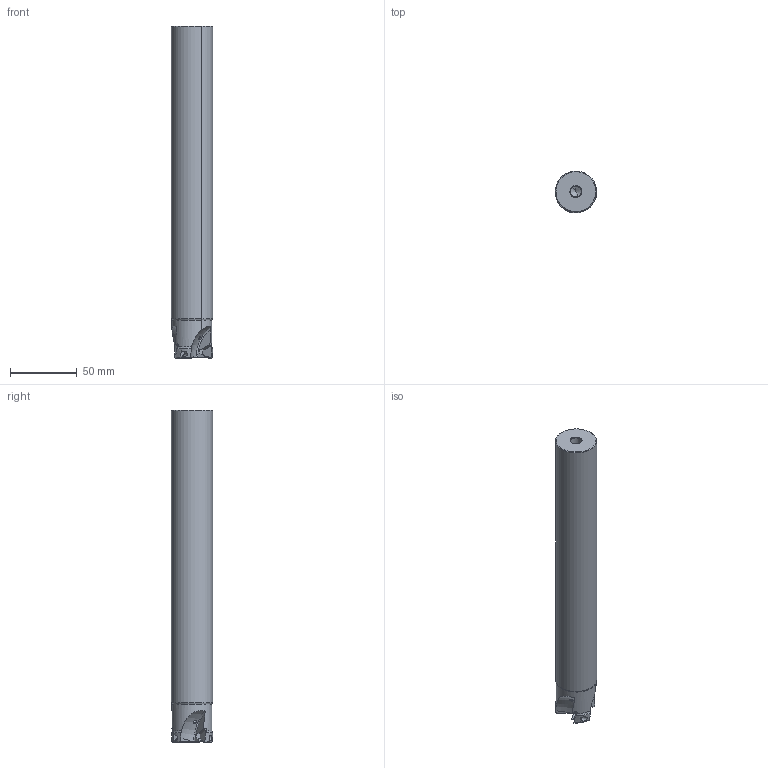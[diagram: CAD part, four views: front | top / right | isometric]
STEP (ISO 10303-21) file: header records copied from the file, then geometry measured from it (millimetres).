
FILE_DESCRIPTION(('CATIA V5 STEP','CAx-IF Rec.Pracs.--- Model Styling and Organization---1.2---2011-12-15'),'2;1');
FILE_NAME('N:\data\isr\design\special1\users\NATALY_B\Tal\NPA\3107038\HM390 ETP D32-3-C31-10-B.stp','2016-07-26T08:06:49+00:00',('none'),('none'),'CATIA Version 5 Release 21 SP 5 (IN-10)','CATIA V5 STEP AP214','none');
FILE_SCHEMA(('AUTOMOTIVE_DESIGN { 1 0 10303 214 1 1 1 1 }'));
Length unit declared in the file: millimetre
Products named in the file (1): HM390 ETP D32-3-C31-10-B
Bounding box: 31.13 x 31.12 x 249.4 mm (x, y, z)
Volume: 180060.6 mm3; surface area: 26343 mm2
Topology: 1 solids, 1 shells, 127 faces, 348 edges, 218 vertices
Faces by surface type: plane 47, cylinder 27, torus 24, cone 14, sphere 12, revolution 3
Entity records: 4310 total; most frequent: CARTESIAN_POINT 1492, ORIENTED_EDGE 674, DIRECTION 414, EDGE_CURVE 337, VERTEX_POINT 218, AXIS2_PLACEMENT_3D 195, B_SPLINE_CURVE_WITH_KNOTS 135, EDGE_LOOP 133
